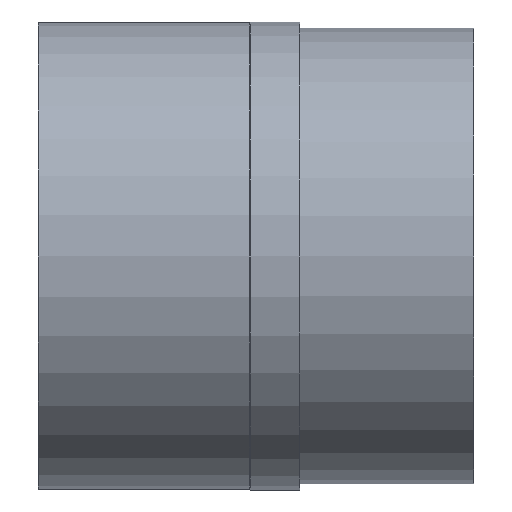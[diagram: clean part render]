
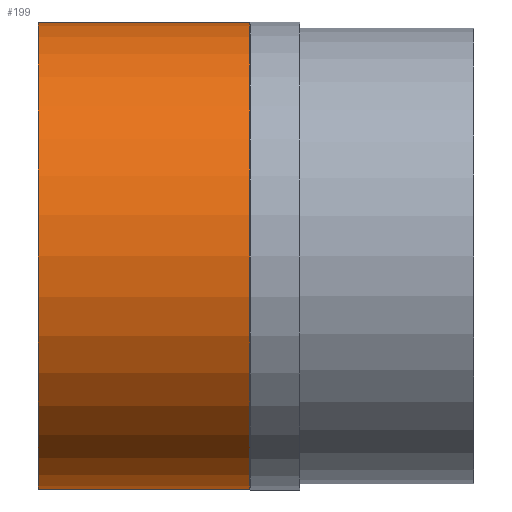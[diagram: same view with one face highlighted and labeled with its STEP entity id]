
A CAD part, front view. The second image highlights one B-rep face of the part: STEP entity #199.
In plain terms, the highlighted cylindrical face has radius 37.5 mm (diameter 75 mm), a full revolution.
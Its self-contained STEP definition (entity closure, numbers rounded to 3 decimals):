
#23=CYLINDRICAL_SURFACE($,#232,37.5);
#42=FACE_BOUND($,#86,.T.);
#58=FACE_OUTER_BOUND($,#85,.T.);
#85=EDGE_LOOP($,(#170));
#86=EDGE_LOOP($,(#171));
#100=CIRCLE($,#213,37.5);
#109=CIRCLE($,#231,37.5);
#117=VERTEX_POINT($,#321);
#126=VERTEX_POINT($,#348);
#134=EDGE_CURVE($,#117,#117,#100,.T.);
#143=EDGE_CURVE($,#126,#126,#109,.T.);
#170=ORIENTED_EDGE($,*,*,#134,.F.);
#171=ORIENTED_EDGE($,*,*,#143,.T.);
#199=ADVANCED_FACE($,(#58,#42),#23,.T.);
#213=AXIS2_PLACEMENT_3D($,#322,#254,#255);
#231=AXIS2_PLACEMENT_3D($,#349,#290,#291);
#232=AXIS2_PLACEMENT_3D($,#350,#292,#293);
#254=DIRECTION('center_axis',(1.,0.,0.));
#255=DIRECTION('ref_axis',(0.,1.,0.));
#290=DIRECTION('center_axis',(1.,0.,0.));
#291=DIRECTION('ref_axis',(0.,1.,0.));
#292=DIRECTION('center_axis',(1.,0.,0.));
#293=DIRECTION('ref_axis',(0.,1.,0.));
#321=CARTESIAN_POINT('',(34.,37.5,0.));
#322=CARTESIAN_POINT('Origin',(34.,0.,0.));
#348=CARTESIAN_POINT('',(0.,37.5,0.));
#349=CARTESIAN_POINT('Origin',(0.,0.,0.));
#350=CARTESIAN_POINT('Origin',(17.,0.,0.));
